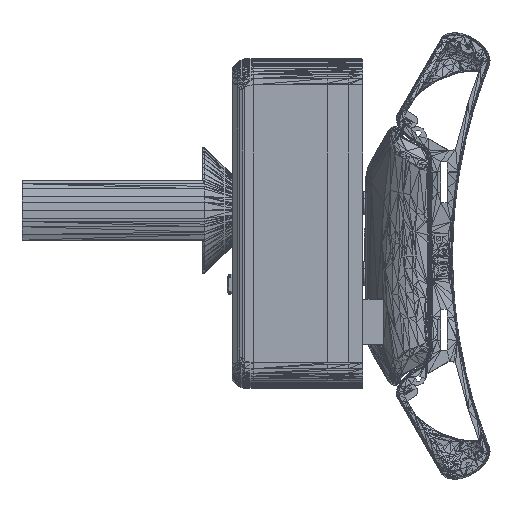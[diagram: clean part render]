
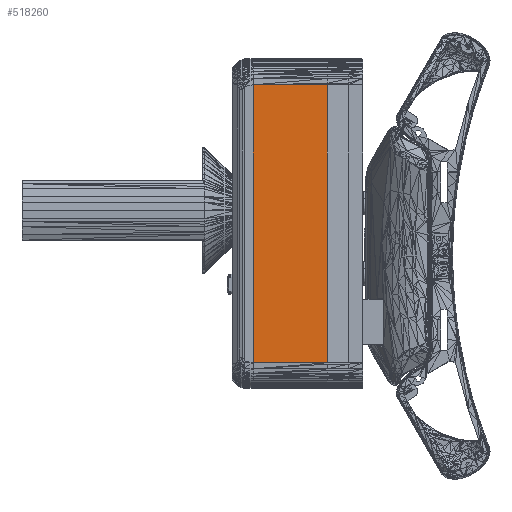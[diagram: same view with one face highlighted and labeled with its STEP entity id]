
A CAD part, left-side view. The second image highlights one B-rep face of the part: STEP entity #518260.
In plain terms, the highlighted planar face has unit normal (-1, 0, 0).
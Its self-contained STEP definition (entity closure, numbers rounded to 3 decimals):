
#512755 = PLANE('',#512756);
#512756 = AXIS2_PLACEMENT_3D('',#512757,#512758,#512759);
#512757 = CARTESIAN_POINT('',(-33.718,57.2,
    -34.871));
#512758 = DIRECTION('',(0.,1.,0.));
#512759 = DIRECTION('',(0.,-0.,1.));
#518156 = VERTEX_POINT('',#518157);
#518157 = CARTESIAN_POINT('',(-35.561,36.,-30.411));
#518196 = PLANE('',#518197);
#518197 = AXIS2_PLACEMENT_3D('',#518198,#518199,#518200);
#518198 = CARTESIAN_POINT('',(-35.53,47.025,
    -30.873));
#518199 = DIRECTION('',(-0.998,-0.,-0.067));
#518200 = DIRECTION('',(0.067,0.,-0.998));
#518211 = EDGE_CURVE('',#518156,#518212,#518214,.T.);
#518212 = VERTEX_POINT('',#518213);
#518213 = CARTESIAN_POINT('',(-35.561,57.2,
    -30.411));
#518214 = SURFACE_CURVE('',#518215,(#518219,#518226),.PCURVE_S1.);
#518215 = LINE('',#518216,#518217);
#518216 = CARTESIAN_POINT('',(-35.561,36.,-30.411));
#518217 = VECTOR('',#518218,1.);
#518218 = DIRECTION('',(0.,1.,0.));
#518219 = PCURVE('',#518196,#518220);
#518220 = DEFINITIONAL_REPRESENTATION('',(#518221),#518225);
#518221 = LINE('',#518222,#518223);
#518222 = CARTESIAN_POINT('',(-0.462,11.025));
#518223 = VECTOR('',#518224,1.);
#518224 = DIRECTION('',(0.,-1.));
#518225 = ( GEOMETRIC_REPRESENTATION_CONTEXT(2) 
PARAMETRIC_REPRESENTATION_CONTEXT() REPRESENTATION_CONTEXT('2D SPACE',''
  ) );
#518226 = PCURVE('',#518227,#518232);
#518227 = PLANE('',#518228);
#518228 = AXIS2_PLACEMENT_3D('',#518229,#518230,#518231);
#518229 = CARTESIAN_POINT('',(-35.561,41.997,
    4.597));
#518230 = DIRECTION('',(-1.,-0.,-0.));
#518231 = DIRECTION('',(0.,0.,-1.));
#518232 = DEFINITIONAL_REPRESENTATION('',(#518233),#518237);
#518233 = LINE('',#518234,#518235);
#518234 = CARTESIAN_POINT('',(35.008,5.997));
#518235 = VECTOR('',#518236,1.);
#518236 = DIRECTION('',(0.,-1.));
#518237 = ( GEOMETRIC_REPRESENTATION_CONTEXT(2) 
PARAMETRIC_REPRESENTATION_CONTEXT() REPRESENTATION_CONTEXT('2D SPACE',''
  ) );
#518260 = ADVANCED_FACE('',(#518261),#518227,.T.);
#518261 = FACE_BOUND('',#518262,.T.);
#518262 = EDGE_LOOP('',(#518263,#518291,#518318,#518339));
#518263 = ORIENTED_EDGE('',*,*,#518264,.F.);
#518264 = EDGE_CURVE('',#518265,#518156,#518267,.T.);
#518265 = VERTEX_POINT('',#518266);
#518266 = CARTESIAN_POINT('',(-35.561,36.,48.811));
#518267 = SURFACE_CURVE('',#518268,(#518272,#518279),.PCURVE_S1.);
#518268 = LINE('',#518269,#518270);
#518269 = CARTESIAN_POINT('',(-35.561,36.,48.811));
#518270 = VECTOR('',#518271,1.);
#518271 = DIRECTION('',(0.,0.,-1.));
#518272 = PCURVE('',#518227,#518273);
#518273 = DEFINITIONAL_REPRESENTATION('',(#518274),#518278);
#518274 = LINE('',#518275,#518276);
#518275 = CARTESIAN_POINT('',(-44.215,5.997));
#518276 = VECTOR('',#518277,1.);
#518277 = DIRECTION('',(1.,0.));
#518278 = ( GEOMETRIC_REPRESENTATION_CONTEXT(2) 
PARAMETRIC_REPRESENTATION_CONTEXT() REPRESENTATION_CONTEXT('2D SPACE',''
  ) );
#518279 = PCURVE('',#518280,#518285);
#518280 = PLANE('',#518281);
#518281 = AXIS2_PLACEMENT_3D('',#518282,#518283,#518284);
#518282 = CARTESIAN_POINT('',(-31.141,31.58,
    7.192));
#518283 = DIRECTION('',(-0.707,-0.707,-0.));
#518284 = DIRECTION('',(0.707,-0.707,0.));
#518285 = DEFINITIONAL_REPRESENTATION('',(#518286),#518290);
#518286 = LINE('',#518287,#518288);
#518287 = CARTESIAN_POINT('',(-6.251,41.619));
#518288 = VECTOR('',#518289,1.);
#518289 = DIRECTION('',(0.,-1.));
#518290 = ( GEOMETRIC_REPRESENTATION_CONTEXT(2) 
PARAMETRIC_REPRESENTATION_CONTEXT() REPRESENTATION_CONTEXT('2D SPACE',''
  ) );
#518291 = ORIENTED_EDGE('',*,*,#518292,.T.);
#518292 = EDGE_CURVE('',#518265,#518293,#518295,.T.);
#518293 = VERTEX_POINT('',#518294);
#518294 = CARTESIAN_POINT('',(-35.561,57.2,
    48.811));
#518295 = SURFACE_CURVE('',#518296,(#518300,#518307),.PCURVE_S1.);
#518296 = LINE('',#518297,#518298);
#518297 = CARTESIAN_POINT('',(-35.561,36.,48.811));
#518298 = VECTOR('',#518299,1.);
#518299 = DIRECTION('',(0.,1.,0.));
#518300 = PCURVE('',#518227,#518301);
#518301 = DEFINITIONAL_REPRESENTATION('',(#518302),#518306);
#518302 = LINE('',#518303,#518304);
#518303 = CARTESIAN_POINT('',(-44.215,5.997));
#518304 = VECTOR('',#518305,1.);
#518305 = DIRECTION('',(0.,-1.));
#518306 = ( GEOMETRIC_REPRESENTATION_CONTEXT(2) 
PARAMETRIC_REPRESENTATION_CONTEXT() REPRESENTATION_CONTEXT('2D SPACE',''
  ) );
#518307 = PCURVE('',#518308,#518313);
#518308 = PLANE('',#518309);
#518309 = AXIS2_PLACEMENT_3D('',#518310,#518311,#518312);
#518310 = CARTESIAN_POINT('',(-35.556,46.495,
    48.918));
#518311 = DIRECTION('',(-0.999,-0.,0.041));
#518312 = DIRECTION('',(-0.041,0.,-0.999));
#518313 = DEFINITIONAL_REPRESENTATION('',(#518314),#518317);
#518314 = B_SPLINE_CURVE_WITH_KNOTS('',1,(#518315,#518316),
  .UNSPECIFIED.,.F.,.F.,(2,2),(0.,21.2),
  .PIECEWISE_BEZIER_KNOTS.);
#518315 = CARTESIAN_POINT('',(0.107,10.495));
#518316 = CARTESIAN_POINT('',(0.107,-10.705));
#518317 = ( GEOMETRIC_REPRESENTATION_CONTEXT(2) 
PARAMETRIC_REPRESENTATION_CONTEXT() REPRESENTATION_CONTEXT('2D SPACE',''
  ) );
#518318 = ORIENTED_EDGE('',*,*,#518319,.T.);
#518319 = EDGE_CURVE('',#518293,#518212,#518320,.T.);
#518320 = SURFACE_CURVE('',#518321,(#518325,#518332),.PCURVE_S1.);
#518321 = LINE('',#518322,#518323);
#518322 = CARTESIAN_POINT('',(-35.561,57.2,
    48.811));
#518323 = VECTOR('',#518324,1.);
#518324 = DIRECTION('',(0.,0.,-1.));
#518325 = PCURVE('',#518227,#518326);
#518326 = DEFINITIONAL_REPRESENTATION('',(#518327),#518331);
#518327 = LINE('',#518328,#518329);
#518328 = CARTESIAN_POINT('',(-44.215,-15.203));
#518329 = VECTOR('',#518330,1.);
#518330 = DIRECTION('',(1.,0.));
#518331 = ( GEOMETRIC_REPRESENTATION_CONTEXT(2) 
PARAMETRIC_REPRESENTATION_CONTEXT() REPRESENTATION_CONTEXT('2D SPACE',''
  ) );
#518332 = PCURVE('',#512755,#518333);
#518333 = DEFINITIONAL_REPRESENTATION('',(#518334),#518338);
#518334 = LINE('',#518335,#518336);
#518335 = CARTESIAN_POINT('',(83.682,-1.843));
#518336 = VECTOR('',#518337,1.);
#518337 = DIRECTION('',(-1.,0.));
#518338 = ( GEOMETRIC_REPRESENTATION_CONTEXT(2) 
PARAMETRIC_REPRESENTATION_CONTEXT() REPRESENTATION_CONTEXT('2D SPACE',''
  ) );
#518339 = ORIENTED_EDGE('',*,*,#518211,.F.);
